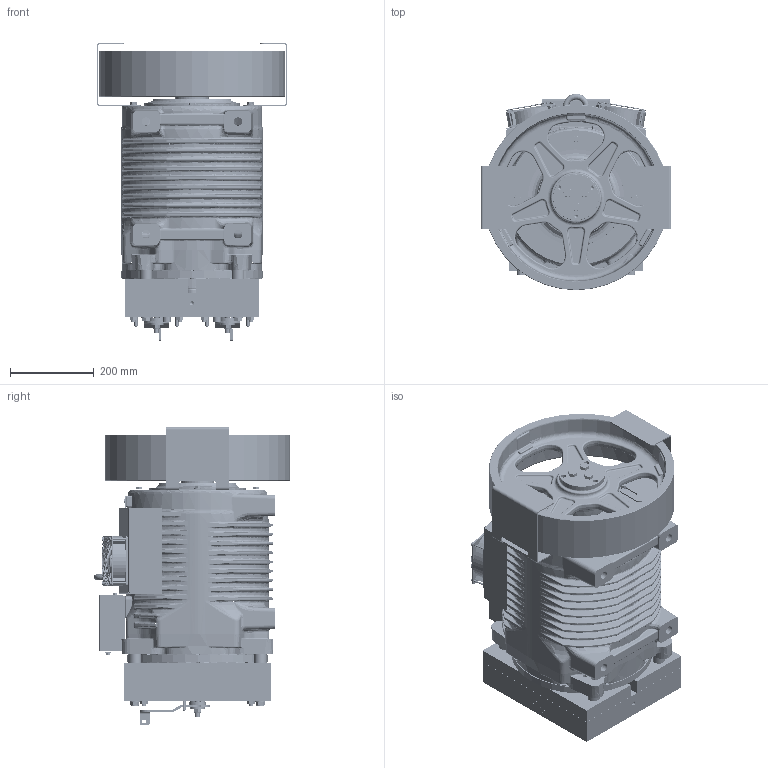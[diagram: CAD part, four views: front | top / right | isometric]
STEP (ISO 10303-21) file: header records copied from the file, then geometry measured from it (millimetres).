
FILE_DESCRIPTION((''),'2;1');
FILE_NAME('00363588_ASM','2020-06-08T',('furlanis'),('Sicor spa'),'CREO PARAMETRIC BY PTC INC, 2017170','CREO PARAMETRIC BY PTC INC, 2017170','');
FILE_SCHEMA(('CONFIG_CONTROL_DESIGN'));
Length unit declared in the file: millimetre
Products named in the file (18): SG48; _440; _440_110; 00073486; TEM12X45_VIT0222; 00255325; M4_FTT_C; 00257514_ASM; 00002908; 00002901; 00002909_ASM; 00002902; 00042420_M4X50; TEM6X12_VIR0184; 00000263; 00257517_ASM; RTW800_MIT_HL; 00363588_ASM
Assembly tree (37 placements, depth 4):
  00363588_ASM
    SG48
    _440  x2
    _440_110
    00073486
    TEM12X45_VIT0222  x3
    00257517_ASM
      00257514_ASM
        00255325
        M4_FTT_C  x8
      00002909_ASM  x2
        00002908
        00002901
      00002902  x2
      00042420_M4X50  x8
      TEM6X12_VIR0184  x2
      00000263
    RTW800_MIT_HL
Bounding box: 456 x 470.5 x 712.34 mm (x, y, z)
Volume: 17571811.5 mm3; surface area: 3534484.8 mm2
Topology: 35 solids, 289 shells, 9016 faces, 26134 edges, 17349 vertices
Faces by surface type: plane 4502, cylinder 1894, bspline 1039, cone 791, torus 736, sphere 42, revolution 12
Entity records: 367432 total; most frequent: CARTESIAN_POINT 157992, ORIENTED_EDGE 44004, DIRECTION 39356, EDGE_CURVE 24476, VERTEX_POINT 16372, VECTOR 14008, LINE 14008, AXIS2_PLACEMENT_3D 12668
